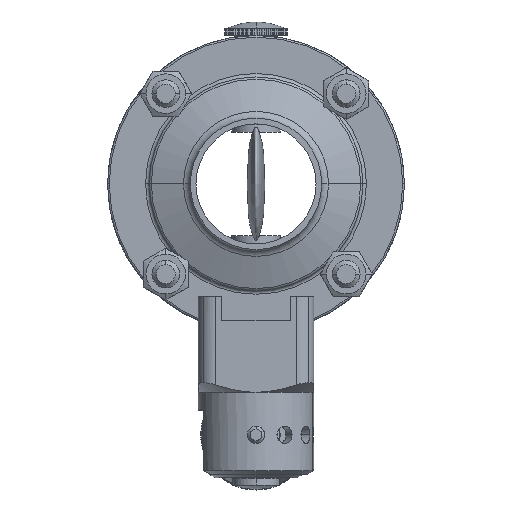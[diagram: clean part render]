
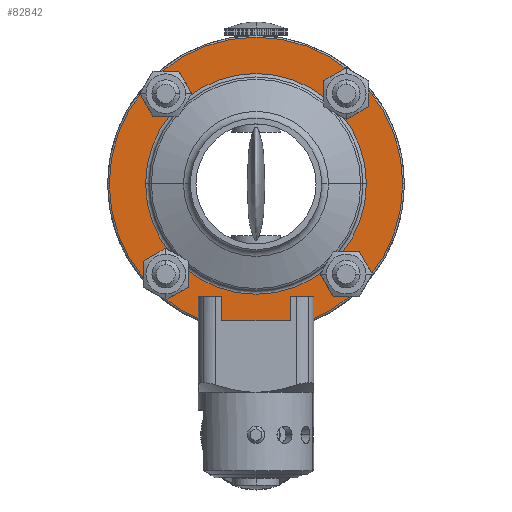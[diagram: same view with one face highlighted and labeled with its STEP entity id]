
A CAD part, front view. The second image highlights one B-rep face of the part: STEP entity #82842.
In plain terms, the highlighted planar face has unit normal (0, -1, 0).
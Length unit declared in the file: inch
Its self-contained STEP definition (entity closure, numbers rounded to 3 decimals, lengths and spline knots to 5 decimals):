
#395 = DIRECTION ( 'NONE',  ( 0., 1., 0. ) ) ;
#487 = DIRECTION ( 'NONE',  ( 0., -1., 0. ) ) ;
#532 = CARTESIAN_POINT ( 'NONE',  ( -1.02865, -0.38976, -1.15857 ) ) ;
#777 = EDGE_CURVE ( 'NONE', #86106, #4852, #50682, .T. ) ;
#1256 = CARTESIAN_POINT ( 'NONE',  ( -1.15857, -0.38976, 1.02865 ) ) ;
#3206 = CIRCLE ( 'NONE', #37076, 1.25984 ) ;
#3383 = DIRECTION ( 'NONE',  ( 1., 0., 0. ) ) ;
#3538 = FACE_BOUND ( 'NONE', #90668, .T. ) ;
#3985 = VERTEX_POINT ( 'NONE', #11345 ) ;
#4852 = VERTEX_POINT ( 'NONE', #74268 ) ;
#7286 = ORIENTED_EDGE ( 'NONE', *, *, #54265, .F. ) ;
#7974 = DIRECTION ( 'NONE',  ( -1., 0., 0. ) ) ;
#9513 = CARTESIAN_POINT ( 'NONE',  ( 1.02865, -0.38976, -1.02865 ) ) ;
#10766 = CARTESIAN_POINT ( 'NONE',  ( -1.6752, -0.38976, 0. ) ) ;
#11345 = CARTESIAN_POINT ( 'NONE',  ( -1.25984, -0.38976, 0. ) ) ;
#11520 = FACE_BOUND ( 'NONE', #79902, .T. ) ;
#11645 = CIRCLE ( 'NONE', #37020, 1.6752 ) ;
#14925 = VERTEX_POINT ( 'NONE', #1256 ) ;
#15153 = ORIENTED_EDGE ( 'NONE', *, *, #99727, .F. ) ;
#15677 = CIRCLE ( 'NONE', #78418, 0.12992 ) ;
#15943 = DIRECTION ( 'NONE',  ( 0., 1., 0. ) ) ;
#16354 = EDGE_CURVE ( 'NONE', #4852, #86106, #11645, .T. ) ;
#16572 = CARTESIAN_POINT ( 'NONE',  ( -0.89872, -0.38976, 1.02865 ) ) ;
#17718 = ORIENTED_EDGE ( 'NONE', *, *, #104657, .F. ) ;
#18105 = DIRECTION ( 'NONE',  ( 0., 0., 1. ) ) ;
#20203 = CARTESIAN_POINT ( 'NONE',  ( 1.25984, -0.38976, 0. ) ) ;
#20574 = AXIS2_PLACEMENT_3D ( 'NONE', #88080, #97068, #7974 ) ;
#20893 = CIRCLE ( 'NONE', #27655, 1.25984 ) ;
#23870 = ORIENTED_EDGE ( 'NONE', *, *, #104640, .F. ) ;
#24644 = CIRCLE ( 'NONE', #61894, 0.12992 ) ;
#25468 = ORIENTED_EDGE ( 'NONE', *, *, #83053, .F. ) ;
#27655 = AXIS2_PLACEMENT_3D ( 'NONE', #45825, #15943, #64743 ) ;
#27962 = PLANE ( 'NONE',  #102183 ) ;
#29066 = EDGE_CURVE ( 'NONE', #62000, #98368, #39172, .T. ) ;
#29772 = AXIS2_PLACEMENT_3D ( 'NONE', #66373, #73793, #18105 ) ;
#29952 = CIRCLE ( 'NONE', #48538, 0.12992 ) ;
#33941 = DIRECTION ( 'NONE',  ( 1., 0., 0. ) ) ;
#36683 = EDGE_CURVE ( 'NONE', #3985, #38472, #20893, .T. ) ;
#37020 = AXIS2_PLACEMENT_3D ( 'NONE', #91208, #41340, #90663 ) ;
#37076 = AXIS2_PLACEMENT_3D ( 'NONE', #76068, #92502, #3383 ) ;
#38472 = VERTEX_POINT ( 'NONE', #20203 ) ;
#39172 = CIRCLE ( 'NONE', #20574, 0.12992 ) ;
#39309 = CARTESIAN_POINT ( 'NONE',  ( 1.02865, -0.38976, 1.15857 ) ) ;
#41098 = DIRECTION ( 'NONE',  ( 0., -1., 0. ) ) ;
#41340 = DIRECTION ( 'NONE',  ( 0., 1., 0. ) ) ;
#41642 = AXIS2_PLACEMENT_3D ( 'NONE', #72661, #487, #33941 ) ;
#42118 = CARTESIAN_POINT ( 'NONE',  ( -1.02865, -0.38976, -0.89872 ) ) ;
#42162 = ORIENTED_EDGE ( 'NONE', *, *, #82081, .F. ) ;
#43071 = ORIENTED_EDGE ( 'NONE', *, *, #777, .F. ) ;
#43317 = CIRCLE ( 'NONE', #41642, 0.12992 ) ;
#45763 = ORIENTED_EDGE ( 'NONE', *, *, #29066, .F. ) ;
#45825 = CARTESIAN_POINT ( 'NONE',  ( 0., -0.38976, 0. ) ) ;
#47755 = ORIENTED_EDGE ( 'NONE', *, *, #36683, .T. ) ;
#48538 = AXIS2_PLACEMENT_3D ( 'NONE', #95075, #101483, #79172 ) ;
#49046 = CARTESIAN_POINT ( 'NONE',  ( -1.02865, -0.38976, -1.02865 ) ) ;
#49048 = DIRECTION ( 'NONE',  ( 0., 0., -1. ) ) ;
#49716 = DIRECTION ( 'NONE',  ( 1., 0., 0. ) ) ;
#50507 = CARTESIAN_POINT ( 'NONE',  ( 1.02865, -0.38976, 1.02865 ) ) ;
#50682 = CIRCLE ( 'NONE', #64009, 1.6752 ) ;
#52973 = VERTEX_POINT ( 'NONE', #89739 ) ;
#54265 = EDGE_CURVE ( 'NONE', #99585, #97201, #75526, .T. ) ;
#56490 = ORIENTED_EDGE ( 'NONE', *, *, #92746, .T. ) ;
#58540 = CARTESIAN_POINT ( 'NONE',  ( 0.89872, -0.38976, -1.02865 ) ) ;
#59520 = DIRECTION ( 'NONE',  ( 0., -1., 0. ) ) ;
#60287 = CARTESIAN_POINT ( 'NONE',  ( 0., -0.38976, -1.6752 ) ) ;
#61894 = AXIS2_PLACEMENT_3D ( 'NONE', #87821, #41098, #49048 ) ;
#62000 = VERTEX_POINT ( 'NONE', #95060 ) ;
#64009 = AXIS2_PLACEMENT_3D ( 'NONE', #73076, #395, #49716 ) ;
#64743 = DIRECTION ( 'NONE',  ( 1., 0., 0. ) ) ;
#65749 = DIRECTION ( 'NONE',  ( -1., 0., 0. ) ) ;
#66373 = CARTESIAN_POINT ( 'NONE',  ( -1.02865, -0.38976, -1.02865 ) ) ;
#66671 = CIRCLE ( 'NONE', #90352, 0.12992 ) ;
#67833 = EDGE_LOOP ( 'NONE', ( #75150, #42162 ) ) ;
#68258 = FACE_BOUND ( 'NONE', #86735, .T. ) ;
#72661 = CARTESIAN_POINT ( 'NONE',  ( -1.02865, -0.38976, 1.02865 ) ) ;
#73076 = CARTESIAN_POINT ( 'NONE',  ( 0., -0.38976, 0. ) ) ;
#73315 = DIRECTION ( 'NONE',  ( 0., 0., -1. ) ) ;
#73793 = DIRECTION ( 'NONE',  ( 0., -1., 0. ) ) ;
#74268 = CARTESIAN_POINT ( 'NONE',  ( 1.6752, -0.38976, 0. ) ) ;
#75150 = ORIENTED_EDGE ( 'NONE', *, *, #81469, .F. ) ;
#75526 = CIRCLE ( 'NONE', #29772, 0.12992 ) ;
#76068 = CARTESIAN_POINT ( 'NONE',  ( 0., -0.38976, 0. ) ) ;
#76227 = FACE_BOUND ( 'NONE', #90523, .T. ) ;
#76735 = DIRECTION ( 'NONE',  ( -1., 0., 0. ) ) ;
#78418 = AXIS2_PLACEMENT_3D ( 'NONE', #50507, #59520, #73315 ) ;
#79172 = DIRECTION ( 'NONE',  ( 1., 0., 0. ) ) ;
#79902 = EDGE_LOOP ( 'NONE', ( #23870, #15153 ) ) ;
#81411 = DIRECTION ( 'NONE',  ( 0., -1., 0. ) ) ;
#81469 = EDGE_CURVE ( 'NONE', #52973, #85153, #24644, .T. ) ;
#82081 = EDGE_CURVE ( 'NONE', #85153, #52973, #15677, .T. ) ;
#82727 = DIRECTION ( 'NONE',  ( 0., -1., 0. ) ) ;
#82842 = ADVANCED_FACE ( 'NONE', ( #92138, #84184, #11520, #76227, #3538, #68258 ), #27962, .T. ) ;
#83053 = EDGE_CURVE ( 'NONE', #97201, #99585, #66671, .T. ) ;
#83587 = VERTEX_POINT ( 'NONE', #16572 ) ;
#84184 = FACE_BOUND ( 'NONE', #67833, .T. ) ;
#84698 = DIRECTION ( 'NONE',  ( 0., -1., 0. ) ) ;
#85153 = VERTEX_POINT ( 'NONE', #39309 ) ;
#86106 = VERTEX_POINT ( 'NONE', #10766 ) ;
#86735 = EDGE_LOOP ( 'NONE', ( #56490, #47755 ) ) ;
#87821 = CARTESIAN_POINT ( 'NONE',  ( 1.02865, -0.38976, 1.02865 ) ) ;
#88080 = CARTESIAN_POINT ( 'NONE',  ( 1.02865, -0.38976, -1.02865 ) ) ;
#89739 = CARTESIAN_POINT ( 'NONE',  ( 1.02865, -0.38976, 0.89872 ) ) ;
#90352 = AXIS2_PLACEMENT_3D ( 'NONE', #49046, #81411, #98920 ) ;
#90523 = EDGE_LOOP ( 'NONE', ( #7286, #25468 ) ) ;
#90616 = ORIENTED_EDGE ( 'NONE', *, *, #16354, .F. ) ;
#90663 = DIRECTION ( 'NONE',  ( 1., 0., 0. ) ) ;
#90668 = EDGE_LOOP ( 'NONE', ( #17718, #45763 ) ) ;
#91208 = CARTESIAN_POINT ( 'NONE',  ( 0., -0.38976, 0. ) ) ;
#92138 = FACE_OUTER_BOUND ( 'NONE', #101261, .T. ) ;
#92502 = DIRECTION ( 'NONE',  ( 0., 1., 0. ) ) ;
#92746 = EDGE_CURVE ( 'NONE', #38472, #3985, #3206, .T. ) ;
#95060 = CARTESIAN_POINT ( 'NONE',  ( 1.15857, -0.38976, -1.02865 ) ) ;
#95075 = CARTESIAN_POINT ( 'NONE',  ( -1.02865, -0.38976, 1.02865 ) ) ;
#97068 = DIRECTION ( 'NONE',  ( 0., -1., 0. ) ) ;
#97201 = VERTEX_POINT ( 'NONE', #532 ) ;
#98368 = VERTEX_POINT ( 'NONE', #58540 ) ;
#98920 = DIRECTION ( 'NONE',  ( 0., 0., 1. ) ) ;
#99196 = AXIS2_PLACEMENT_3D ( 'NONE', #9513, #82727, #65749 ) ;
#99585 = VERTEX_POINT ( 'NONE', #42118 ) ;
#99727 = EDGE_CURVE ( 'NONE', #14925, #83587, #29952, .T. ) ;
#101261 = EDGE_LOOP ( 'NONE', ( #90616, #43071 ) ) ;
#101483 = DIRECTION ( 'NONE',  ( 0., -1., 0. ) ) ;
#102183 = AXIS2_PLACEMENT_3D ( 'NONE', #60287, #84698, #76735 ) ;
#102593 = CIRCLE ( 'NONE', #99196, 0.12992 ) ;
#104640 = EDGE_CURVE ( 'NONE', #83587, #14925, #43317, .T. ) ;
#104657 = EDGE_CURVE ( 'NONE', #98368, #62000, #102593, .T. ) ;
